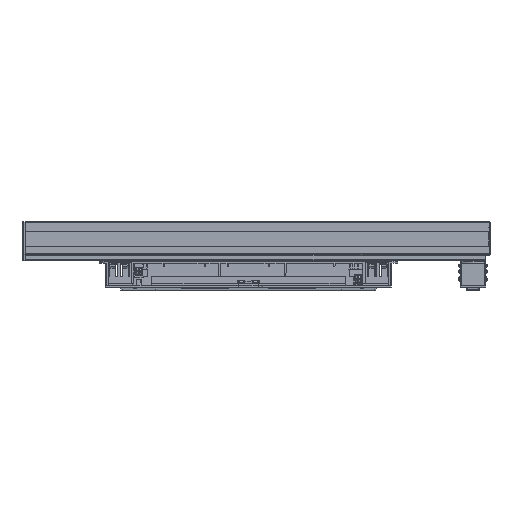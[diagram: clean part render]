
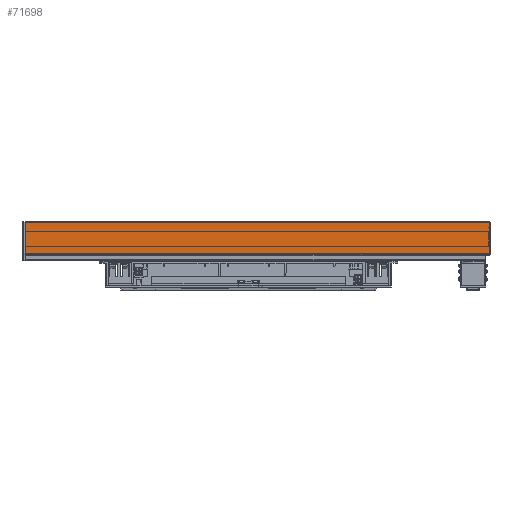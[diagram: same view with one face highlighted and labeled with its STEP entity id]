
A CAD part, top view. The second image highlights one B-rep face of the part: STEP entity #71698.
In plain terms, the highlighted planar face has unit normal (0, 0, 1) as drawn and (-1, 0, 0) by its records, which use the part's own axes.
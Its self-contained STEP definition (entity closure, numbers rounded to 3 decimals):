
#1334 = CARTESIAN_POINT ( 'NONE',  ( -11., 4.5, 150. ) ) ;
#2065 = VERTEX_POINT ( 'NONE', #154299 ) ;
#4763 = DIRECTION ( 'NONE',  ( 1., 0., 0. ) ) ;
#16016 = DIRECTION ( 'NONE',  ( 0., -1., 0. ) ) ;
#17701 = FACE_OUTER_BOUND ( 'NONE', #123233, .T. ) ;
#20670 = VERTEX_POINT ( 'NONE', #1334 ) ;
#23566 = EDGE_CURVE ( 'NONE', #77229, #129883, #152089, .T. ) ;
#28920 = LINE ( 'NONE', #81638, #140096 ) ;
#34068 = CARTESIAN_POINT ( 'NONE',  ( -11., 21.588, -150. ) ) ;
#40980 = VECTOR ( 'NONE', #43553, 1000. ) ;
#43553 = DIRECTION ( 'NONE',  ( 0., 0., 1. ) ) ;
#49408 = CARTESIAN_POINT ( 'NONE',  ( -11., 24.901, -150. ) ) ;
#57421 = DIRECTION ( 'NONE',  ( 0., 0., -1. ) ) ;
#69515 = LINE ( 'NONE', #161576, #40980 ) ;
#70384 = PLANE ( 'NONE',  #74457 ) ;
#71698 = ADVANCED_FACE ( 'NONE', ( #17701 ), #70384, .F. ) ;
#74457 = AXIS2_PLACEMENT_3D ( 'NONE', #122874, #4763, #57421 ) ;
#77034 = VECTOR ( 'NONE', #86783, 1000. ) ;
#77229 = VERTEX_POINT ( 'NONE', #154021 ) ;
#81638 = CARTESIAN_POINT ( 'NONE',  ( -11., 4.5, 150. ) ) ;
#81653 = LINE ( 'NONE', #134073, #86064 ) ;
#83176 = EDGE_CURVE ( 'NONE', #20670, #77229, #28920, .T. ) ;
#86064 = VECTOR ( 'NONE', #16016, 1000. ) ;
#86783 = DIRECTION ( 'NONE',  ( 0., 1., 0. ) ) ;
#122874 = CARTESIAN_POINT ( 'NONE',  ( -11., 24.901, 150. ) ) ;
#123233 = EDGE_LOOP ( 'NONE', ( #134680, #125404, #144905, #161835 ) ) ;
#125404 = ORIENTED_EDGE ( 'NONE', *, *, #159380, .F. ) ;
#129883 = VERTEX_POINT ( 'NONE', #49408 ) ;
#134057 = DIRECTION ( 'NONE',  ( 0., 0., -1. ) ) ;
#134073 = CARTESIAN_POINT ( 'NONE',  ( -11., 25.201, 150. ) ) ;
#134680 = ORIENTED_EDGE ( 'NONE', *, *, #83176, .F. ) ;
#140096 = VECTOR ( 'NONE', #134057, 1000. ) ;
#144905 = ORIENTED_EDGE ( 'NONE', *, *, #153308, .F. ) ;
#152089 = LINE ( 'NONE', #34068, #77034 ) ;
#153308 = EDGE_CURVE ( 'NONE', #129883, #2065, #69515, .T. ) ;
#154021 = CARTESIAN_POINT ( 'NONE',  ( -11., 4.5, -150. ) ) ;
#154299 = CARTESIAN_POINT ( 'NONE',  ( -11., 24.901, 150. ) ) ;
#159380 = EDGE_CURVE ( 'NONE', #2065, #20670, #81653, .T. ) ;
#161576 = CARTESIAN_POINT ( 'NONE',  ( -11., 24.901, 150. ) ) ;
#161835 = ORIENTED_EDGE ( 'NONE', *, *, #23566, .F. ) ;
